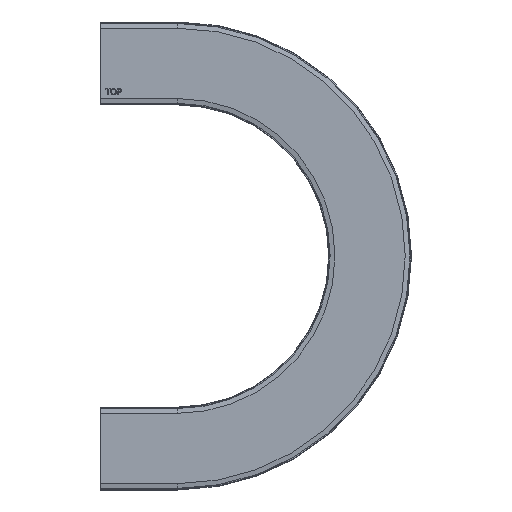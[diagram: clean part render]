
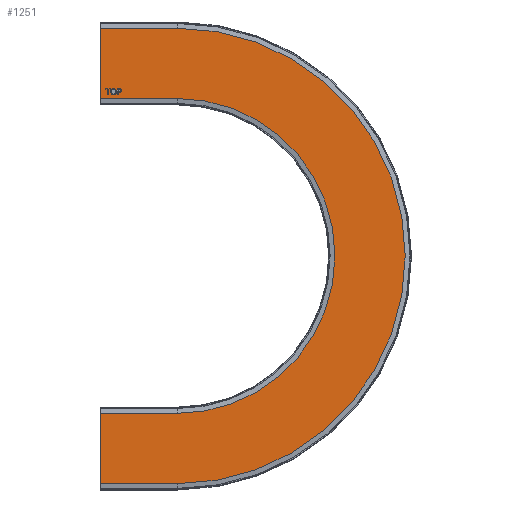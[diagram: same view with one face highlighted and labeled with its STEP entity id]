
A CAD part, top view. The second image highlights one B-rep face of the part: STEP entity #1251.
In plain terms, the highlighted planar face has unit normal (0, 0, 1).
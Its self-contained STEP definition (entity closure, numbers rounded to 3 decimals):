
#243=CARTESIAN_POINT('',(10.621,-29.49,0.0));
#244=VERTEX_POINT('',#243);
#251=CARTESIAN_POINT('',(13.541,-32.563,0.0));
#252=VERTEX_POINT('',#251);
#253=CARTESIAN_POINT('',(13.541,-32.563,0.0));
#254=CARTESIAN_POINT('',(12.676,-32.563,0.0));
#255=CARTESIAN_POINT('',(11.319,-31.731,0.0));
#256=CARTESIAN_POINT('',(10.621,-30.294,0.0));
#257=CARTESIAN_POINT('',(10.621,-29.49,0.0));
#258=QUASI_UNIFORM_CURVE('',2,(#253,#254,#255,#256,#257),.UNSPECIFIED.,.F.,.U.);
#259=EDGE_CURVE('',#252,#244,#258,.T.);
#292=CARTESIAN_POINT('',(16.456,-29.42,0.0));
#293=VERTEX_POINT('',#292);
#294=CARTESIAN_POINT('',(16.456,-29.42,0.0));
#295=CARTESIAN_POINT('',(16.456,-30.346,0.0));
#296=CARTESIAN_POINT('',(15.708,-31.81,0.0));
#297=CARTESIAN_POINT('',(14.331,-32.563,0.0));
#298=CARTESIAN_POINT('',(13.541,-32.563,0.0));
#299=QUASI_UNIFORM_CURVE('',2,(#294,#295,#296,#297,#298),.UNSPECIFIED.,.F.,.U.);
#300=EDGE_CURVE('',#293,#252,#299,.T.);
#333=CARTESIAN_POINT('',(13.541,-26.254,0.0));
#334=VERTEX_POINT('',#333);
#335=CARTESIAN_POINT('',(13.541,-26.254,0.0));
#336=CARTESIAN_POINT('',(14.387,-26.254,0.0));
#337=CARTESIAN_POINT('',(15.745,-27.063,0.0));
#338=CARTESIAN_POINT('',(16.456,-28.504,0.0));
#339=CARTESIAN_POINT('',(16.456,-29.42,0.0));
#340=QUASI_UNIFORM_CURVE('',2,(#335,#336,#337,#338,#339),.UNSPECIFIED.,.F.,.U.);
#341=EDGE_CURVE('',#334,#293,#340,.T.);
#369=CARTESIAN_POINT('',(10.621,-29.49,0.0));
#370=CARTESIAN_POINT('',(10.621,-27.97,0.0));
#371=CARTESIAN_POINT('',(12.253,-26.254,0.0));
#372=CARTESIAN_POINT('',(13.541,-26.254,0.0));
#373=QUASI_UNIFORM_CURVE('',2,(#369,#370,#371,#372),.UNSPECIFIED.,.F.,.U.);
#374=EDGE_CURVE('',#244,#334,#373,.T.);
#413=CARTESIAN_POINT('',(7.208,-32.461,0.0));
#414=VERTEX_POINT('',#413);
#421=CARTESIAN_POINT('',(8.017,-32.461,0.0));
#422=VERTEX_POINT('',#421);
#423=CARTESIAN_POINT('',(8.017,-32.461,0.0));
#424=DIRECTION('',(-1.0,0.0,0.0));
#425=VECTOR('',#424,0.809);
#426=LINE('',#423,#425);
#427=EDGE_CURVE('',#422,#414,#426,.T.);
#452=CARTESIAN_POINT('',(8.017,-27.082,0.0));
#453=VERTEX_POINT('',#452);
#454=CARTESIAN_POINT('',(8.017,-27.082,0.0));
#455=DIRECTION('',(0.0,-1.0,0.0));
#456=VECTOR('',#455,5.379);
#457=LINE('',#454,#456);
#458=EDGE_CURVE('',#453,#422,#457,.T.);
#483=CARTESIAN_POINT('',(10.035,-27.082,0.0));
#484=VERTEX_POINT('',#483);
#485=CARTESIAN_POINT('',(10.035,-27.082,0.0));
#486=DIRECTION('',(-1.0,0.0,0.0));
#487=VECTOR('',#486,2.018);
#488=LINE('',#485,#487);
#489=EDGE_CURVE('',#484,#453,#488,.T.);
#514=CARTESIAN_POINT('',(10.035,-26.361,0.0));
#515=VERTEX_POINT('',#514);
#516=CARTESIAN_POINT('',(10.035,-26.361,0.0));
#517=DIRECTION('',(0.0,-1.0,0.0));
#518=VECTOR('',#517,0.721);
#519=LINE('',#516,#518);
#520=EDGE_CURVE('',#515,#484,#519,.T.);
#545=CARTESIAN_POINT('',(5.2,-26.361,0.0));
#546=VERTEX_POINT('',#545);
#547=CARTESIAN_POINT('',(5.2,-26.361,0.0));
#548=DIRECTION('',(1.0,0.0,0.0));
#549=VECTOR('',#548,4.835);
#550=LINE('',#547,#549);
#551=EDGE_CURVE('',#546,#515,#550,.T.);
#576=CARTESIAN_POINT('',(5.2,-27.082,0.0));
#577=VERTEX_POINT('',#576);
#578=CARTESIAN_POINT('',(5.2,-27.082,0.0));
#579=DIRECTION('',(0.0,1.0,0.0));
#580=VECTOR('',#579,0.721);
#581=LINE('',#578,#580);
#582=EDGE_CURVE('',#577,#546,#581,.T.);
#607=CARTESIAN_POINT('',(7.208,-27.082,0.0));
#608=VERTEX_POINT('',#607);
#609=CARTESIAN_POINT('',(7.208,-27.082,0.0));
#610=DIRECTION('',(-1.0,0.0,0.0));
#611=VECTOR('',#610,2.009);
#612=LINE('',#609,#611);
#613=EDGE_CURVE('',#608,#577,#612,.T.);
#636=CARTESIAN_POINT('',(7.208,-32.461,0.0));
#637=DIRECTION('',(0.0,1.0,0.0));
#638=VECTOR('',#637,5.379);
#639=LINE('',#636,#638);
#640=EDGE_CURVE('',#414,#608,#639,.T.);
#877=CARTESIAN_POINT('',(17.493,-32.461,0.0));
#878=VERTEX_POINT('',#877);
#885=CARTESIAN_POINT('',(18.302,-32.461,0.0));
#886=VERTEX_POINT('',#885);
#887=CARTESIAN_POINT('',(18.302,-32.461,0.0));
#888=DIRECTION('',(-1.0,0.0,0.0));
#889=VECTOR('',#888,0.809);
#890=LINE('',#887,#889);
#891=EDGE_CURVE('',#886,#878,#890,.T.);
#916=CARTESIAN_POINT('',(18.302,-29.983,0.0));
#917=VERTEX_POINT('',#916);
#918=CARTESIAN_POINT('',(18.302,-29.983,0.0));
#919=DIRECTION('',(0.0,-1.0,0.0));
#920=VECTOR('',#919,2.478);
#921=LINE('',#918,#920);
#922=EDGE_CURVE('',#917,#886,#921,.T.);
#947=CARTESIAN_POINT('',(19.869,-29.983,0.0));
#948=VERTEX_POINT('',#947);
#949=CARTESIAN_POINT('',(19.869,-29.983,0.0));
#950=DIRECTION('',(-1.0,0.0,0.0));
#951=VECTOR('',#950,1.567);
#952=LINE('',#949,#951);
#953=EDGE_CURVE('',#948,#917,#952,.T.);
#983=CARTESIAN_POINT('',(22.152,-28.128,0.0));
#984=VERTEX_POINT('',#983);
#985=CARTESIAN_POINT('',(22.152,-28.128,0.0));
#986=CARTESIAN_POINT('',(22.152,-28.904,0.0));
#987=CARTESIAN_POINT('',(21.161,-29.983,0.0));
#988=CARTESIAN_POINT('',(19.869,-29.983,0.0));
#989=QUASI_UNIFORM_CURVE('',2,(#985,#986,#987,#988),.UNSPECIFIED.,.F.,.U.);
#990=EDGE_CURVE('',#984,#948,#989,.T.);
#1023=CARTESIAN_POINT('',(20.724,-26.422,0.0));
#1024=VERTEX_POINT('',#1023);
#1025=CARTESIAN_POINT('',(20.724,-26.422,0.0));
#1026=CARTESIAN_POINT('',(21.175,-26.496,0.0));
#1027=CARTESIAN_POINT('',(21.78,-26.914,0.0));
#1028=CARTESIAN_POINT('',(22.152,-27.672,0.0));
#1029=CARTESIAN_POINT('',(22.152,-28.128,0.0));
#1030=QUASI_UNIFORM_CURVE('',2,(#1025,#1026,#1027,#1028,#1029),.UNSPECIFIED.,.F.,.U.);
#1031=EDGE_CURVE('',#1024,#984,#1030,.T.);
#1058=CARTESIAN_POINT('',(19.794,-26.361,0.0));
#1059=VERTEX_POINT('',#1058);
#1060=CARTESIAN_POINT('',(19.794,-26.361,0.0));
#1061=CARTESIAN_POINT('',(20.403,-26.361,0.0));
#1062=CARTESIAN_POINT('',(20.724,-26.422,0.0));
#1063=QUASI_UNIFORM_CURVE('',2,(#1060,#1061,#1062),.UNSPECIFIED.,.F.,.U.);
#1064=EDGE_CURVE('',#1059,#1024,#1063,.T.);
#1089=CARTESIAN_POINT('',(17.493,-26.361,0.0));
#1090=VERTEX_POINT('',#1089);
#1091=CARTESIAN_POINT('',(17.493,-26.361,0.0));
#1092=DIRECTION('',(1.0,0.0,0.0));
#1093=VECTOR('',#1092,2.301);
#1094=LINE('',#1091,#1093);
#1095=EDGE_CURVE('',#1090,#1059,#1094,.T.);
#1118=CARTESIAN_POINT('',(17.493,-32.461,0.0));
#1119=DIRECTION('',(0.0,1.0,0.0));
#1120=VECTOR('',#1119,6.1);
#1121=LINE('',#1118,#1120);
#1122=EDGE_CURVE('',#878,#1090,#1121,.T.);
#1152=CARTESIAN_POINT('',(0.0,0.0,0.0));
#1153=DIRECTION('',(0.0,0.0,1.0));
#1154=DIRECTION('',(1.0,0.0,0.0));
#1155=AXIS2_PLACEMENT_3D('',#1152,#1153,#1154);
#1156=PLANE('',#1155);
#1157=CARTESIAN_POINT('',(0.0,36.5,0.0));
#1158=VERTEX_POINT('',#1157);
#1159=CARTESIAN_POINT('',(80.0,36.5,0.0));
#1160=VERTEX_POINT('',#1159);
#1161=CARTESIAN_POINT('',(0.0,36.5,0.0));
#1162=DIRECTION('',(1.0,0.0,0.0));
#1163=VECTOR('',#1162,80.0);
#1164=LINE('',#1161,#1163);
#1165=EDGE_CURVE('',#1158,#1160,#1164,.T.);
#1166=ORIENTED_EDGE('',*,*,#1165,.F.);
#1167=CARTESIAN_POINT('',(0.0,-36.5,0.0));
#1168=VERTEX_POINT('',#1167);
#1169=CARTESIAN_POINT('',(0.0,36.5,0.0));
#1170=DIRECTION('',(0.0,-1.0,0.0));
#1171=VECTOR('',#1170,73.0);
#1172=LINE('',#1169,#1171);
#1173=EDGE_CURVE('',#1158,#1168,#1172,.T.);
#1174=ORIENTED_EDGE('',*,*,#1173,.T.);
#1175=CARTESIAN_POINT('',(80.0,-36.5,0.0));
#1176=VERTEX_POINT('',#1175);
#1177=CARTESIAN_POINT('',(0.0,-36.5,0.0));
#1178=DIRECTION('',(1.0,0.0,0.0));
#1179=VECTOR('',#1178,80.0);
#1180=LINE('',#1177,#1179);
#1181=EDGE_CURVE('',#1168,#1176,#1180,.T.);
#1182=ORIENTED_EDGE('',*,*,#1181,.T.);
#1183=CARTESIAN_POINT('',(80.,-363.5,0.0));
#1184=VERTEX_POINT('',#1183);
#1185=CARTESIAN_POINT('',(80.0,-200.0,0.0));
#1186=DIRECTION('',(0.0,0.0,-1.0));
#1187=DIRECTION('',(0.0,1.0,0.0));
#1188=AXIS2_PLACEMENT_3D('',#1185,#1186,#1187);
#1189=CIRCLE('',#1188,163.5);
#1190=EDGE_CURVE('',#1176,#1184,#1189,.T.);
#1191=ORIENTED_EDGE('',*,*,#1190,.T.);
#1192=CARTESIAN_POINT('',(0.,-363.5,0.0));
#1193=VERTEX_POINT('',#1192);
#1194=CARTESIAN_POINT('',(80.,-363.5,0.0));
#1195=DIRECTION('',(-1.0,0.0,0.0));
#1196=VECTOR('',#1195,80.);
#1197=LINE('',#1194,#1196);
#1198=EDGE_CURVE('',#1184,#1193,#1197,.T.);
#1199=ORIENTED_EDGE('',*,*,#1198,.T.);
#1200=CARTESIAN_POINT('',(0.,-436.5,0.0));
#1201=VERTEX_POINT('',#1200);
#1202=CARTESIAN_POINT('',(0.,-363.5,0.));
#1203=DIRECTION('',(0.0,-1.0,0.0));
#1204=VECTOR('',#1203,73.0);
#1205=LINE('',#1202,#1204);
#1206=EDGE_CURVE('',#1193,#1201,#1205,.T.);
#1207=ORIENTED_EDGE('',*,*,#1206,.T.);
#1208=CARTESIAN_POINT('',(80.,-436.5,0.0));
#1209=VERTEX_POINT('',#1208);
#1210=CARTESIAN_POINT('',(80.,-436.5,0.0));
#1211=DIRECTION('',(-1.0,0.0,0.0));
#1212=VECTOR('',#1211,80.);
#1213=LINE('',#1210,#1212);
#1214=EDGE_CURVE('',#1209,#1201,#1213,.T.);
#1215=ORIENTED_EDGE('',*,*,#1214,.F.);
#1216=CARTESIAN_POINT('',(80.0,-200.0,0.0));
#1217=DIRECTION('',(0.0,0.0,-1.0));
#1218=DIRECTION('',(0.0,1.0,0.0));
#1219=AXIS2_PLACEMENT_3D('',#1216,#1217,#1218);
#1220=CIRCLE('',#1219,236.5);
#1221=EDGE_CURVE('',#1160,#1209,#1220,.T.);
#1222=ORIENTED_EDGE('',*,*,#1221,.F.);
#1223=EDGE_LOOP('',(#1166,#1174,#1182,#1191,#1199,#1207,#1215,#1222));
#1224=FACE_OUTER_BOUND('',#1223,.T.);
#1225=ORIENTED_EDGE('',*,*,#259,.T.);
#1226=ORIENTED_EDGE('',*,*,#374,.T.);
#1227=ORIENTED_EDGE('',*,*,#341,.T.);
#1228=ORIENTED_EDGE('',*,*,#300,.T.);
#1229=EDGE_LOOP('',(#1225,#1226,#1227,#1228));
#1230=FACE_BOUND('',#1229,.T.);
#1231=ORIENTED_EDGE('',*,*,#427,.T.);
#1232=ORIENTED_EDGE('',*,*,#640,.T.);
#1233=ORIENTED_EDGE('',*,*,#613,.T.);
#1234=ORIENTED_EDGE('',*,*,#582,.T.);
#1235=ORIENTED_EDGE('',*,*,#551,.T.);
#1236=ORIENTED_EDGE('',*,*,#520,.T.);
#1237=ORIENTED_EDGE('',*,*,#489,.T.);
#1238=ORIENTED_EDGE('',*,*,#458,.T.);
#1239=EDGE_LOOP('',(#1231,#1232,#1233,#1234,#1235,#1236,#1237,#1238));
#1240=FACE_BOUND('',#1239,.T.);
#1241=ORIENTED_EDGE('',*,*,#891,.T.);
#1242=ORIENTED_EDGE('',*,*,#1122,.T.);
#1243=ORIENTED_EDGE('',*,*,#1095,.T.);
#1244=ORIENTED_EDGE('',*,*,#1064,.T.);
#1245=ORIENTED_EDGE('',*,*,#1031,.T.);
#1246=ORIENTED_EDGE('',*,*,#990,.T.);
#1247=ORIENTED_EDGE('',*,*,#953,.T.);
#1248=ORIENTED_EDGE('',*,*,#922,.T.);
#1249=EDGE_LOOP('',(#1241,#1242,#1243,#1244,#1245,#1246,#1247,#1248));
#1250=FACE_BOUND('',#1249,.T.);
#1251=ADVANCED_FACE('',(#1224,#1230,#1240,#1250),#1156,.T.);
